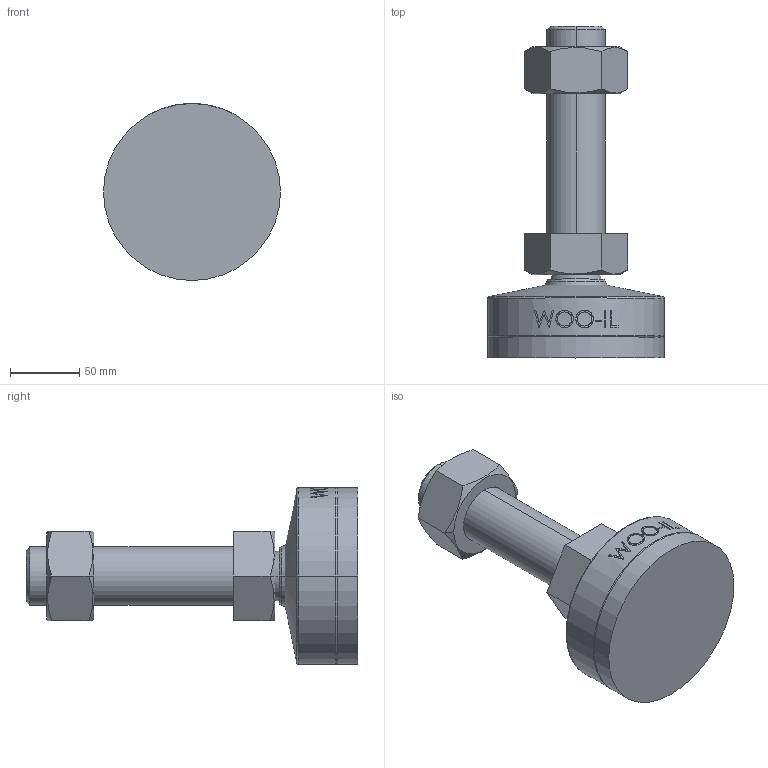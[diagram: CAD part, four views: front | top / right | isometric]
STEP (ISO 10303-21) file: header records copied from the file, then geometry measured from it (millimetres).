
FILE_DESCRIPTION (( 'STEP AP214' ), '1' );
FILE_NAME ('MFNR128-M42-150.step', '2021-02-22T09:05:07', ( '' ), ( '' ), 'SwSTEP 2.0', 'SolidWorks 2019', '' );
FILE_SCHEMA (( 'AUTOMOTIVE_DESIGN' ));
Length unit declared in the file: millimetre
Products named in the file (2): MFNR128-M42-150
Bounding box: 128 x 240 x 128 mm (x, y, z)
Volume: 1021985.3 mm3; surface area: 92460.7 mm2
Topology: 2 solids, 2 shells, 103 faces, 239 edges, 152 vertices
Faces by surface type: plane 47, cone 18, cylinder 16, bspline 16, torus 4, sphere 2
Entity records: 4657 total; most frequent: CARTESIAN_POINT 2378, ORIENTED_EDGE 478, DIRECTION 423, EDGE_CURVE 239, AXIS2_PLACEMENT_3D 161, VERTEX_POINT 152, EDGE_LOOP 117, FACE_OUTER_BOUND 103
